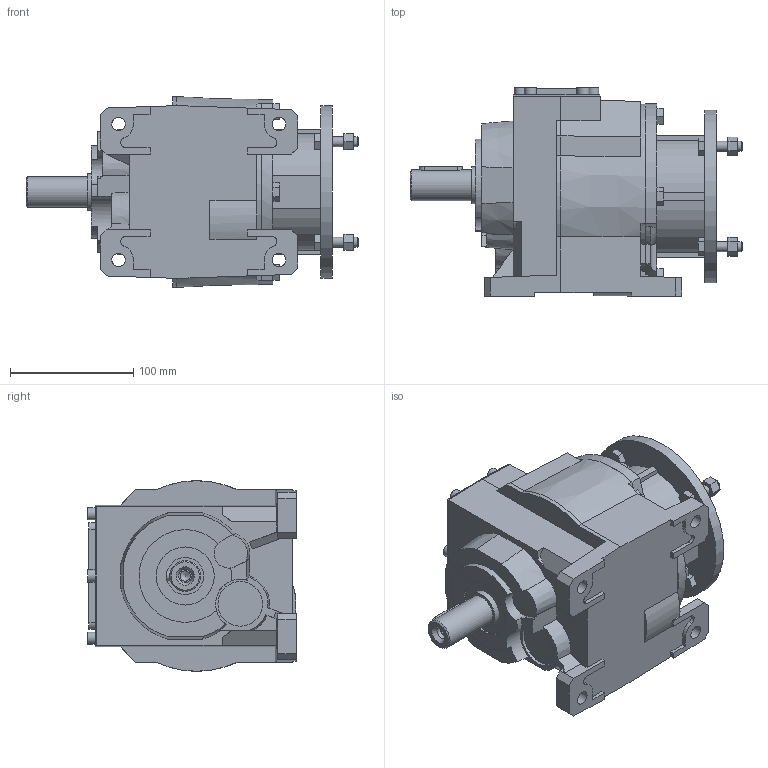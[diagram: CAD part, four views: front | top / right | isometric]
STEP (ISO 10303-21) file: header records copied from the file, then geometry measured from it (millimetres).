
FILE_DESCRIPTION(/* description */ ('STEP AP214'),/* implementation_level */ '2;1');
FILE_NAME(/* name */ 'H033T63 B525x500NO----(-NO----------)',/* time_stamp */ '2024-11-05T09:30:34+01:00',/* author */ ('License CC BY-ND 4.0'),/* organization */ ('CADENAS'),/* preprocessor_version */ 'ST-DEVELOPER v19.3',/* originating_system */ 'PARTsolutions',/* authorisation */ ' ');
FILE_SCHEMA (('AUTOMOTIVE_DESIGN {1 0 10303 214 3 1 1}'));
Length unit declared in the file: millimetre
Products named in the file (5): H033T63 B525x500NO----(-NO----------); 033 T; 033-H-140x11(63 B51); 033-140x11; 033T25-1
Assembly tree (4 placements, depth 2):
  H033T63 B525x500NO----(-NO----------)
    033 T
    033-H-140x11(63 B51)
    033-140x11
    033T25-1
Bounding box: 269 x 169 x 154.6 mm (x, y, z)
Volume: 2977838.8 mm3; surface area: 243764.6 mm2
Topology: 4 solids, 4 shells, 436 faces, 1134 edges, 757 vertices
Faces by surface type: plane 335, cylinder 79, cone 19, torus 3
Full cylindrical faces by diameter (mm): 5.93 x3, 8 x8, 8.376 x1, 10 x6, 10.5 x1, 11 x4, 16 x1, 25 x2, 30 x1, 36.16 x1, 47 x1, 88 x1, 95 x1, 110 x2, 140 x1
Entity records: 15976 total; most frequent: CARTESIAN_POINT 2366, ORIENTED_EDGE 2148, DIRECTION 2142, EDGE_CURVE 1074, LINE 832, VECTOR 832, VERTEX_POINT 740, AXIS2_PLACEMENT_3D 655
